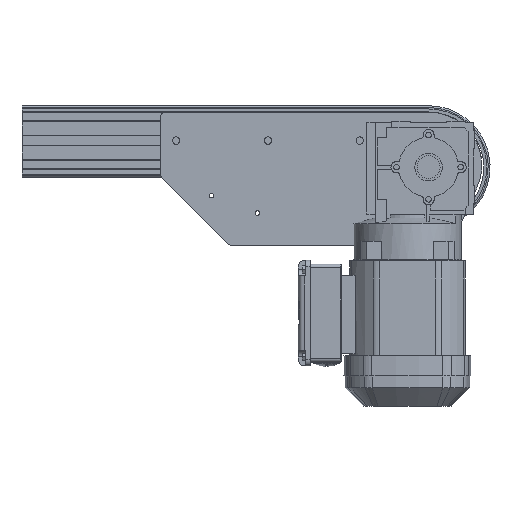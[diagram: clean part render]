
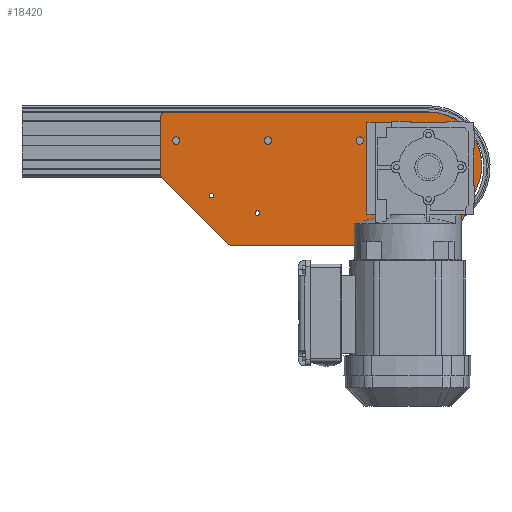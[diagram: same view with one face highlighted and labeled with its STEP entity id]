
A CAD part, front view. The second image highlights one B-rep face of the part: STEP entity #18420.
In plain terms, the highlighted planar face has unit normal (0, -1, 0).
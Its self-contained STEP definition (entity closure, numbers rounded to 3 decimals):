
#17803=CARTESIAN_POINT('',(-54.,-38.0,-67.));
#17804=VERTEX_POINT('',#17803);
#17805=CARTESIAN_POINT('',(-67.,-38.0,-67.));
#17806=DIRECTION('',(0.0,1.0,0.0));
#17807=DIRECTION('',(-1.0,0.0,0.0));
#17808=AXIS2_PLACEMENT_3D('',#17805,#17806,#17807);
#17809=CIRCLE('',#17808,13.0);
#17810=EDGE_CURVE('',#17804,#17804,#17809,.T.);
#17823=CARTESIAN_POINT('',(-95.5,-38.0,-67.));
#17824=VERTEX_POINT('',#17823);
#17825=CARTESIAN_POINT('',(-99.5,-38.0,-67.));
#17826=DIRECTION('',(0.0,1.0,0.0));
#17827=DIRECTION('',(-1.0,0.0,0.0));
#17828=AXIS2_PLACEMENT_3D('',#17825,#17826,#17827);
#17829=CIRCLE('',#17828,4.0);
#17830=EDGE_CURVE('',#17824,#17824,#17829,.T.);
#17843=CARTESIAN_POINT('',(-30.5,-38.0,-67.));
#17844=VERTEX_POINT('',#17843);
#17845=CARTESIAN_POINT('',(-34.5,-38.0,-67.));
#17846=DIRECTION('',(0.0,1.0,0.0));
#17847=DIRECTION('',(-1.0,0.0,0.0));
#17848=AXIS2_PLACEMENT_3D('',#17845,#17846,#17847);
#17849=CIRCLE('',#17848,4.0);
#17850=EDGE_CURVE('',#17844,#17844,#17849,.T.);
#17871=CARTESIAN_POINT('',(-338.,-38.0,-38.));
#17872=VERTEX_POINT('',#17871);
#17873=CARTESIAN_POINT('',(-342.,-38.0,-38.));
#17874=DIRECTION('',(0.0,1.0,0.0));
#17875=DIRECTION('',(-1.0,0.0,0.0));
#17876=AXIS2_PLACEMENT_3D('',#17873,#17874,#17875);
#17877=CIRCLE('',#17876,4.0);
#17878=EDGE_CURVE('',#17872,#17872,#17877,.T.);
#17899=CARTESIAN_POINT('',(-238.,-38.0,-38.));
#17900=VERTEX_POINT('',#17899);
#17901=CARTESIAN_POINT('',(-242.,-38.0,-38.));
#17902=DIRECTION('',(0.0,1.0,0.0));
#17903=DIRECTION('',(-1.0,0.0,0.0));
#17904=AXIS2_PLACEMENT_3D('',#17901,#17902,#17903);
#17905=CIRCLE('',#17904,4.0);
#17906=EDGE_CURVE('',#17900,#17900,#17905,.T.);
#17927=CARTESIAN_POINT('',(-138.,-38.0,-38.));
#17928=VERTEX_POINT('',#17927);
#17929=CARTESIAN_POINT('',(-142.,-38.0,-38.));
#17930=DIRECTION('',(0.0,1.0,0.0));
#17931=DIRECTION('',(-1.0,0.0,0.0));
#17932=AXIS2_PLACEMENT_3D('',#17929,#17930,#17931);
#17933=CIRCLE('',#17932,4.0);
#17934=EDGE_CURVE('',#17928,#17928,#17933,.T.);
#17947=CARTESIAN_POINT('',(-251.,-38.,-117.));
#17948=VERTEX_POINT('',#17947);
#17949=CARTESIAN_POINT('',(-253.5,-38.0,-117.));
#17950=DIRECTION('',(0.0,1.0,0.0));
#17951=DIRECTION('',(-1.0,0.0,0.0));
#17952=AXIS2_PLACEMENT_3D('',#17949,#17950,#17951);
#17953=CIRCLE('',#17952,2.5);
#17954=EDGE_CURVE('',#17948,#17948,#17953,.T.);
#17967=CARTESIAN_POINT('',(-301.,-38.,-98.));
#17968=VERTEX_POINT('',#17967);
#17969=CARTESIAN_POINT('',(-303.5,-38.0,-98.));
#17970=DIRECTION('',(0.0,1.0,0.0));
#17971=DIRECTION('',(-1.0,0.0,0.0));
#17972=AXIS2_PLACEMENT_3D('',#17969,#17970,#17971);
#17973=CIRCLE('',#17972,2.5);
#17974=EDGE_CURVE('',#17968,#17968,#17973,.T.);
#18106=CARTESIAN_POINT('',(-359.0,-38.0,-74.79));
#18107=VERTEX_POINT('',#18106);
#18114=CARTESIAN_POINT('',(-359.,-38.0,-12.));
#18115=VERTEX_POINT('',#18114);
#18116=CARTESIAN_POINT('',(-359.0,-38.0,-74.79));
#18117=DIRECTION('',(0.0,0.0,1.0));
#18118=VECTOR('',#18117,62.79);
#18119=LINE('',#18116,#18118);
#18120=EDGE_CURVE('',#18107,#18115,#18119,.T.);
#18146=CARTESIAN_POINT('',(-354.,-38.0,-7.));
#18147=VERTEX_POINT('',#18146);
#18148=CARTESIAN_POINT('',(-354.,-38.0,-12.));
#18149=DIRECTION('',(0.0,1.0,0.0));
#18150=DIRECTION('',(-1.0,0.0,0.0));
#18151=AXIS2_PLACEMENT_3D('',#18148,#18149,#18150);
#18152=CIRCLE('',#18151,5.0);
#18153=EDGE_CURVE('',#18115,#18147,#18152,.T.);
#18179=CARTESIAN_POINT('',(-357.541,-38.0,-78.32));
#18180=VERTEX_POINT('',#18179);
#18187=CARTESIAN_POINT('',(-354.,-38.0,-74.79));
#18188=DIRECTION('',(0.0,1.0,0.0));
#18189=DIRECTION('',(-1.0,0.0,0.0));
#18190=AXIS2_PLACEMENT_3D('',#18187,#18188,#18189);
#18191=CIRCLE('',#18190,5.0);
#18192=EDGE_CURVE('',#18180,#18107,#18191,.T.);
#18204=CARTESIAN_POINT('',(-285.557,-38.0,-150.53));
#18205=VERTEX_POINT('',#18204);
#18212=CARTESIAN_POINT('',(-285.557,-38.0,-150.53));
#18213=DIRECTION('',(-0.706,0.0,0.708));
#18214=VECTOR('',#18213,101.961);
#18215=LINE('',#18212,#18214);
#18216=EDGE_CURVE('',#18205,#18180,#18215,.T.);
#18228=CARTESIAN_POINT('',(-282.016,-38.0,-152.));
#18229=VERTEX_POINT('',#18228);
#18236=CARTESIAN_POINT('',(-282.016,-38.0,-147.));
#18237=DIRECTION('',(0.0,1.0,0.0));
#18238=DIRECTION('',(-1.0,0.0,0.0));
#18239=AXIS2_PLACEMENT_3D('',#18236,#18237,#18238);
#18240=CIRCLE('',#18239,5.0);
#18241=EDGE_CURVE('',#18229,#18205,#18240,.T.);
#18253=CARTESIAN_POINT('',(-63.3,-38.0,-152.));
#18254=VERTEX_POINT('',#18253);
#18261=CARTESIAN_POINT('',(-63.3,-38.0,-152.));
#18262=DIRECTION('',(-1.0,0.0,0.0));
#18263=VECTOR('',#18262,218.716);
#18264=LINE('',#18261,#18263);
#18265=EDGE_CURVE('',#18254,#18229,#18264,.T.);
#18277=CARTESIAN_POINT('',(-33.597,-38.0,-132.69));
#18278=VERTEX_POINT('',#18277);
#18285=CARTESIAN_POINT('',(-63.3,-38.0,-119.5));
#18286=DIRECTION('',(0.0,1.0,0.0));
#18287=DIRECTION('',(-1.0,0.0,0.0));
#18288=AXIS2_PLACEMENT_3D('',#18285,#18286,#18287);
#18289=CIRCLE('',#18288,32.5);
#18290=EDGE_CURVE('',#18278,#18254,#18289,.T.);
#18302=CARTESIAN_POINT('',(-13.991,-38.0,-88.539));
#18303=VERTEX_POINT('',#18302);
#18310=CARTESIAN_POINT('',(-13.991,-38.0,-88.539));
#18311=DIRECTION('',(-0.406,0.0,-0.914));
#18312=VECTOR('',#18311,48.308);
#18313=LINE('',#18310,#18312);
#18314=EDGE_CURVE('',#18303,#18278,#18313,.T.);
#18335=CARTESIAN_POINT('',(-67.,-38.0,-7.));
#18336=VERTEX_POINT('',#18335);
#18343=CARTESIAN_POINT('',(-67.,-38.0,-65.));
#18344=DIRECTION('',(0.0,1.0,0.0));
#18345=DIRECTION('',(-1.0,0.0,0.0));
#18346=AXIS2_PLACEMENT_3D('',#18343,#18344,#18345);
#18347=CIRCLE('',#18346,58.);
#18348=EDGE_CURVE('',#18336,#18303,#18347,.T.);
#18369=CARTESIAN_POINT('',(-354.,-38.0,-7.));
#18370=DIRECTION('',(1.0,0.0,0.0));
#18371=VECTOR('',#18370,287.0);
#18372=LINE('',#18369,#18371);
#18373=EDGE_CURVE('',#18147,#18336,#18372,.T.);
#18379=CARTESIAN_POINT('',(-215.937,-38.0,-84.786));
#18380=DIRECTION('',(0.0,1.0,0.0));
#18381=DIRECTION('',(-1.0,0.0,0.0));
#18382=AXIS2_PLACEMENT_3D('',#18379,#18380,#18381);
#18383=PLANE('',#18382);
#18384=ORIENTED_EDGE('',*,*,#18373,.F.);
#18385=ORIENTED_EDGE('',*,*,#18153,.F.);
#18386=ORIENTED_EDGE('',*,*,#18120,.F.);
#18387=ORIENTED_EDGE('',*,*,#18192,.F.);
#18388=ORIENTED_EDGE('',*,*,#18216,.F.);
#18389=ORIENTED_EDGE('',*,*,#18241,.F.);
#18390=ORIENTED_EDGE('',*,*,#18265,.F.);
#18391=ORIENTED_EDGE('',*,*,#18290,.F.);
#18392=ORIENTED_EDGE('',*,*,#18314,.F.);
#18393=ORIENTED_EDGE('',*,*,#18348,.F.);
#18394=EDGE_LOOP('',(#18384,#18385,#18386,#18387,#18388,#18389,#18390,#18391,#18392,#18393));
#18395=FACE_OUTER_BOUND('',#18394,.T.);
#18396=ORIENTED_EDGE('',*,*,#17974,.T.);
#18397=EDGE_LOOP('',(#18396));
#18398=FACE_BOUND('',#18397,.T.);
#18399=ORIENTED_EDGE('',*,*,#17954,.T.);
#18400=EDGE_LOOP('',(#18399));
#18401=FACE_BOUND('',#18400,.T.);
#18402=ORIENTED_EDGE('',*,*,#17934,.T.);
#18403=EDGE_LOOP('',(#18402));
#18404=FACE_BOUND('',#18403,.T.);
#18405=ORIENTED_EDGE('',*,*,#17906,.T.);
#18406=EDGE_LOOP('',(#18405));
#18407=FACE_BOUND('',#18406,.T.);
#18408=ORIENTED_EDGE('',*,*,#17878,.T.);
#18409=EDGE_LOOP('',(#18408));
#18410=FACE_BOUND('',#18409,.T.);
#18411=ORIENTED_EDGE('',*,*,#17850,.T.);
#18412=EDGE_LOOP('',(#18411));
#18413=FACE_BOUND('',#18412,.T.);
#18414=ORIENTED_EDGE('',*,*,#17830,.T.);
#18415=EDGE_LOOP('',(#18414));
#18416=FACE_BOUND('',#18415,.T.);
#18417=ORIENTED_EDGE('',*,*,#17810,.T.);
#18418=EDGE_LOOP('',(#18417));
#18419=FACE_BOUND('',#18418,.T.);
#18420=ADVANCED_FACE('',(#18395,#18398,#18401,#18404,#18407,#18410,#18413,#18416,#18419),#18383,.F.);
